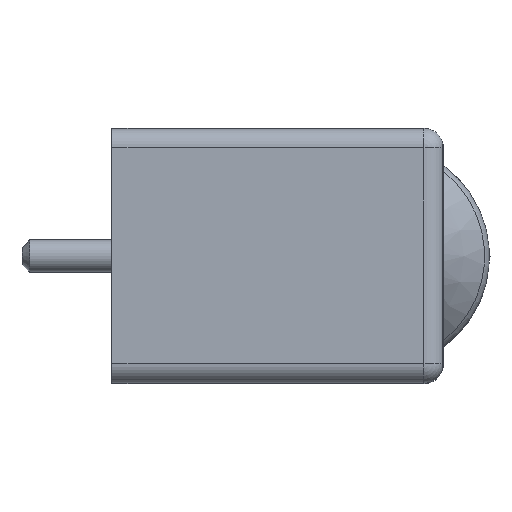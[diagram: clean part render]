
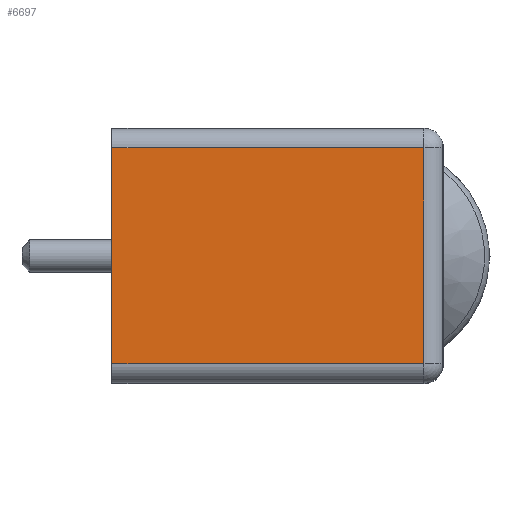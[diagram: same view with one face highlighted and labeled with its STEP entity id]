
A CAD part, top view. The second image highlights one B-rep face of the part: STEP entity #6697.
In plain terms, the highlighted planar face has unit normal (0, 0, 1).
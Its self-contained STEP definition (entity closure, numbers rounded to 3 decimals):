
#592=CARTESIAN_POINT('',(13.714,-8.159,28.245));
#593=VERTEX_POINT('',#592);
#609=CARTESIAN_POINT('',(13.714,9.265,28.245));
#610=VERTEX_POINT('',#609);
#618=CARTESIAN_POINT('',(13.714,9.265,28.245));
#619=DIRECTION('',(0.0,-1.0,0.0));
#620=VECTOR('',#619,17.424);
#621=LINE('',#618,#620);
#622=EDGE_CURVE('',#610,#593,#621,.T.);
#3572=CARTESIAN_POINT('',(-11.482,-8.159,28.245));
#3573=VERTEX_POINT('',#3572);
#3581=CARTESIAN_POINT('',(-11.482,9.265,28.245));
#3582=VERTEX_POINT('',#3581);
#3583=CARTESIAN_POINT('',(-11.482,-8.159,28.245));
#3584=DIRECTION('',(0.0,1.0,0.0));
#3585=VECTOR('',#3584,17.424);
#3586=LINE('',#3583,#3585);
#3587=EDGE_CURVE('',#3573,#3582,#3586,.T.);
#6575=CARTESIAN_POINT('',(13.714,-8.159,28.245));
#6576=DIRECTION('',(-1.0,0.0,0.0));
#6577=VECTOR('',#6576,25.197);
#6578=LINE('',#6575,#6577);
#6579=EDGE_CURVE('',#593,#3573,#6578,.T.);
#6619=CARTESIAN_POINT('',(-11.482,9.265,28.245));
#6620=DIRECTION('',(1.0,0.0,0.0));
#6621=VECTOR('',#6620,25.197);
#6622=LINE('',#6619,#6621);
#6623=EDGE_CURVE('',#3582,#610,#6622,.T.);
#6686=CARTESIAN_POINT('',(1.903,0.553,28.245));
#6687=DIRECTION('',(0.0,0.0,1.0));
#6688=DIRECTION('',(1.0,0.0,0.0));
#6689=AXIS2_PLACEMENT_3D('',#6686,#6687,#6688);
#6690=PLANE('',#6689);
#6691=ORIENTED_EDGE('',*,*,#6579,.F.);
#6692=ORIENTED_EDGE('',*,*,#622,.F.);
#6693=ORIENTED_EDGE('',*,*,#6623,.F.);
#6694=ORIENTED_EDGE('',*,*,#3587,.F.);
#6695=EDGE_LOOP('',(#6691,#6692,#6693,#6694));
#6696=FACE_OUTER_BOUND('',#6695,.T.);
#6697=ADVANCED_FACE('',(#6696),#6690,.T.);
